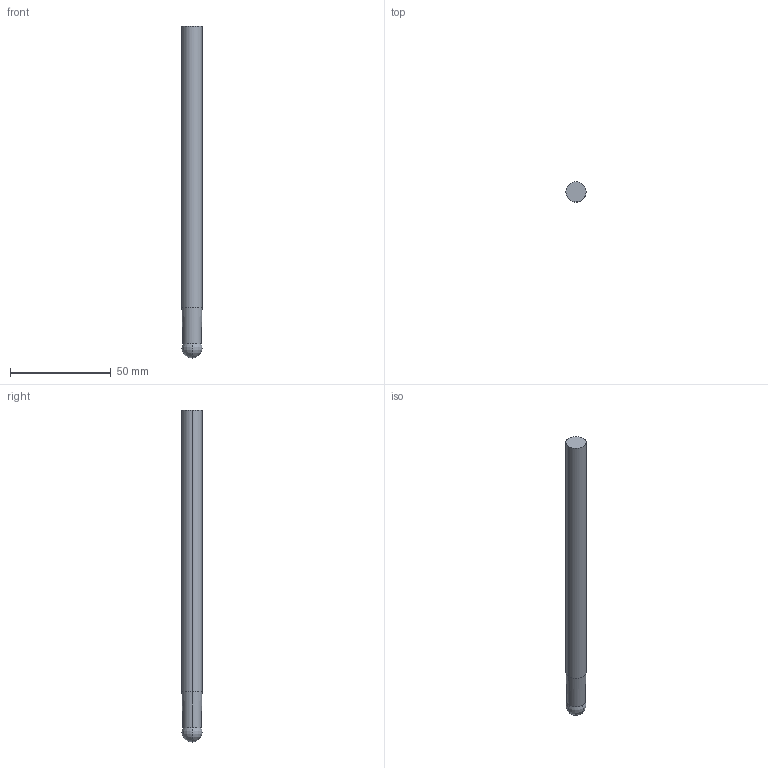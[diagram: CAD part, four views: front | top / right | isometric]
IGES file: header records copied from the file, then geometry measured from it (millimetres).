
Start section: 3D InterOp IGES (v. 2020 1.0.1), Spatial Corp. Copyright (c) 1999-2017.
Global section: file name: WZT2512_05_10_2_165_A.igs; native system: Spatial Corp.; preprocessor: 3D InterOp GENERIC/IGES 3.0; author: Noname; organization: Noname; date: 20201007.095630; units: metre
Bounding box: 10 x 10 x 165 mm (x, y, z)
Surface area: 5234.2 mm2 (no closed solid volume)
Topology: 0 solids, 0 shells, 9 faces, 36 edges, 32 vertices
Faces by surface type: revolution 8, extrusion 1
